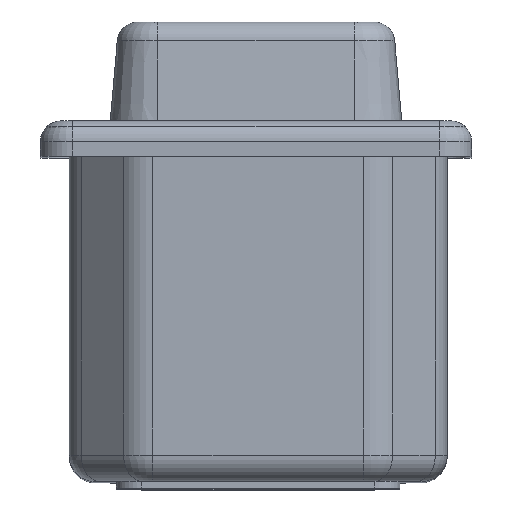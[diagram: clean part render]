
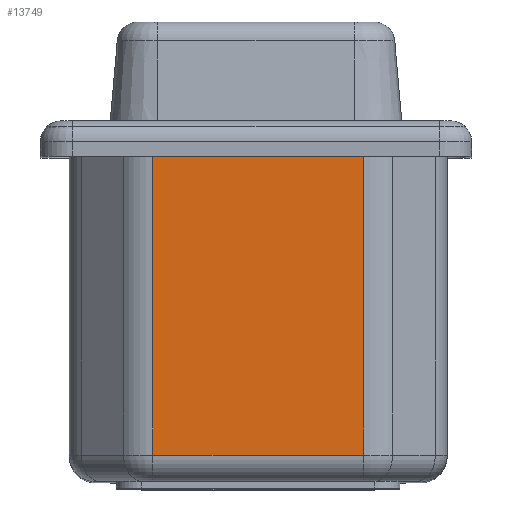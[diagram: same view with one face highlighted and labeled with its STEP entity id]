
A CAD part, top view. The second image highlights one B-rep face of the part: STEP entity #13749.
In plain terms, the highlighted planar face has unit normal (0, 0, 1).
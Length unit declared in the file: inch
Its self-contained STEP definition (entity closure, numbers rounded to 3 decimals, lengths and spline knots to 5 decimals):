
#552 = EDGE_CURVE ( 'NONE', #11702, #11782, #3434, .T. ) ;
#557 = EDGE_CURVE ( 'NONE', #11782, #11759, #3441, .T. ) ;
#558 = EDGE_CURVE ( 'NONE', #11712, #11759, #3444, .T. ) ;
#559 = EDGE_CURVE ( 'NONE', #11712, #11702, #3446, .T. ) ;
#2312 = ORIENTED_EDGE ( 'NONE', *, *, #557, .T. ) ;
#3108 = AXIS2_PLACEMENT_3D ( 'NONE', #14905, #14910, #14906 ) ;
#3434 = LINE ( 'NONE', #9202, #3435 ) ;
#3435 = VECTOR ( 'NONE', #9203, 39.37008 ) ;
#3441 = LINE ( 'NONE', #9170, #3443 ) ;
#3443 = VECTOR ( 'NONE', #9171, 39.37008 ) ;
#3444 = LINE ( 'NONE', #9172, #3445 ) ;
#3445 = VECTOR ( 'NONE', #9162, 39.37008 ) ;
#3446 = LINE ( 'NONE', #9163, #3447 ) ;
#3447 = VECTOR ( 'NONE', #9185, 39.37008 ) ;
#4544 = ORIENTED_EDGE ( 'NONE', *, *, #559, .T. ) ;
#4545 = ORIENTED_EDGE ( 'NONE', *, *, #558, .F. ) ;
#6166 = ORIENTED_EDGE ( 'NONE', *, *, #552, .T. ) ;
#9162 = DIRECTION ( 'NONE',  ( 0., -1., 0. ) ) ;
#9163 = CARTESIAN_POINT ( 'NONE',  ( 1.11432, 3.615, 5.125 ) ) ;
#9170 = CARTESIAN_POINT ( 'NONE',  ( 1.11432, 0.279, 5.125 ) ) ;
#9171 = DIRECTION ( 'NONE',  ( 1., 0., 0. ) ) ;
#9172 = CARTESIAN_POINT ( 'NONE',  ( 1.11432, 3.75, 5.125 ) ) ;
#9185 = DIRECTION ( 'NONE',  ( -1., 0., 0. ) ) ;
#9202 = CARTESIAN_POINT ( 'NONE',  ( -1.11432, 3.75, 5.125 ) ) ;
#9203 = DIRECTION ( 'NONE',  ( 0., -1., 0. ) ) ;
#9554 = FACE_OUTER_BOUND ( 'NONE', #10907, .T. ) ;
#10907 = EDGE_LOOP ( 'NONE', ( #4545, #4544, #6166, #2312 ) ) ;
#11702 = VERTEX_POINT ( 'NONE', #16130 ) ;
#11712 = VERTEX_POINT ( 'NONE', #16124 ) ;
#11759 = VERTEX_POINT ( 'NONE', #16078 ) ;
#11782 = VERTEX_POINT ( 'NONE', #16054 ) ;
#13749 = ADVANCED_FACE ( 'NONE', ( #9554 ), #14904, .F. ) ;
#14904 = PLANE ( 'NONE',  #3108 ) ;
#14905 = CARTESIAN_POINT ( 'NONE',  ( 1.11432, 3.75, 5.125 ) ) ;
#14906 = DIRECTION ( 'NONE',  ( -1., 0., 0. ) ) ;
#14910 = DIRECTION ( 'NONE',  ( 0., 0., -1. ) ) ;
#16054 = CARTESIAN_POINT ( 'NONE',  ( -1.11432, 0.279, 5.125 ) ) ;
#16078 = CARTESIAN_POINT ( 'NONE',  ( 1.11432, 0.279, 5.125 ) ) ;
#16124 = CARTESIAN_POINT ( 'NONE',  ( 1.11432, 3.615, 5.125 ) ) ;
#16130 = CARTESIAN_POINT ( 'NONE',  ( -1.11432, 3.615, 5.125 ) ) ;
